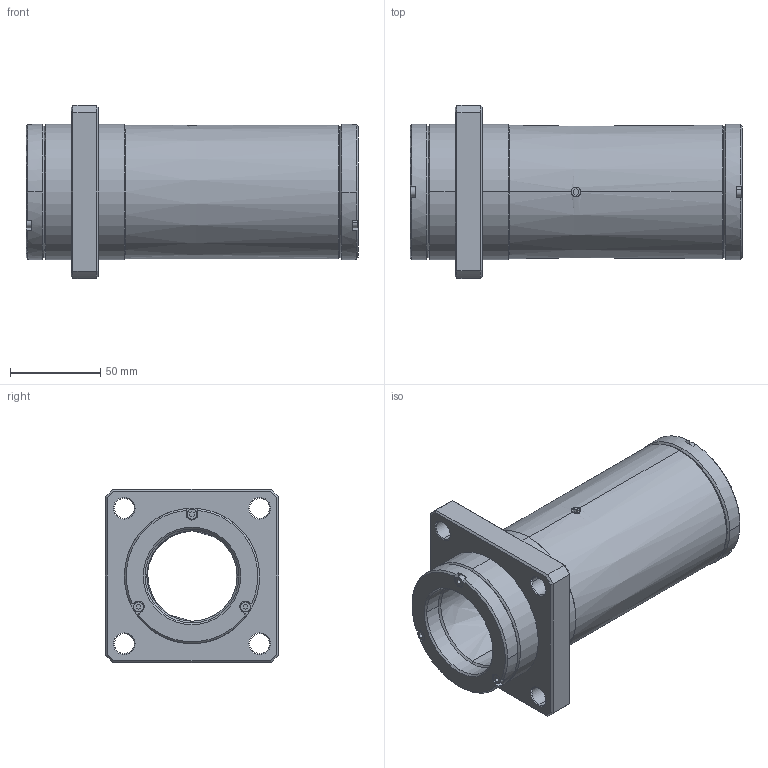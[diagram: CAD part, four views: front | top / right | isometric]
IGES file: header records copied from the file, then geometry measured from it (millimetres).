
Start section: 3D InterOp IGES (Version 21 0 1), Spatial Corp. Copyright (c) 1999-2007.
Global section: file name: LCF-50BUU-K.igs; native system: Spatial Corp.; preprocessor: 3D InterOp GENERIC/IGES 3.0; author: Noname; organization: Noname; date: 20220204.084001; units: millimetre
Bounding box: 184 x 96 x 96 mm (x, y, z)
Surface area: 90077.8 mm2 (no closed solid volume)
Topology: 0 solids, 0 shells, 200 faces, 1016 edges, 1016 vertices
Faces by surface type: revolution 108, extrusion 92
